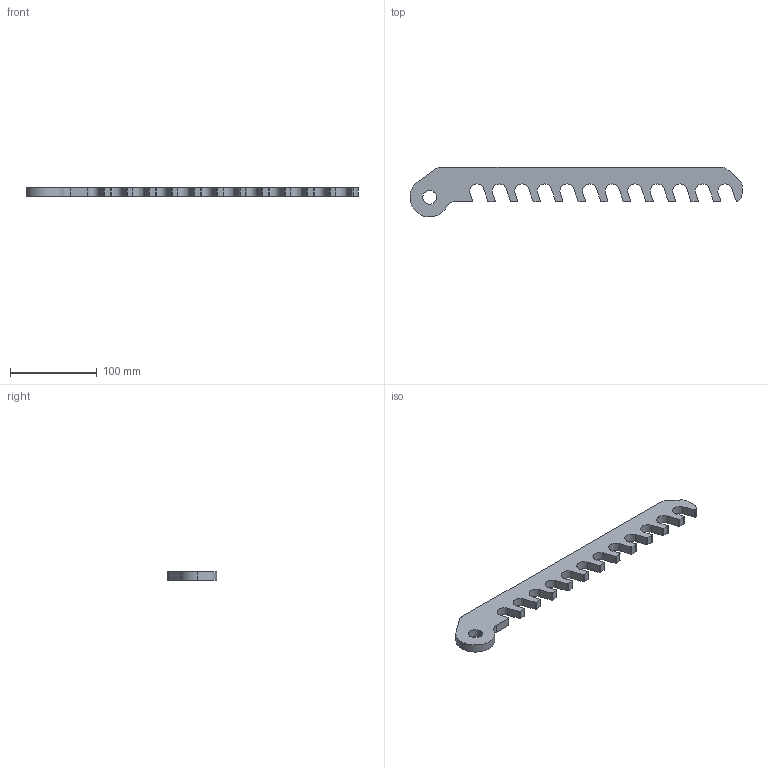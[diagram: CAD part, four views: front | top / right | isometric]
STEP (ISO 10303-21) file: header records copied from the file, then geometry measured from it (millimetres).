
FILE_DESCRIPTION (( 'STEP AP214' ), '1' );
FILE_NAME ('Schiebestange.STEP', '2016-12-28T08:45:37', ( '' ), ( '' ), 'SwSTEP 2.0', 'SolidWorks 2016', '' );
FILE_SCHEMA (( 'AUTOMOTIVE_DESIGN' ));
Length unit declared in the file: millimetre
Products named in the file (1): Schiebestange
Bounding box: 382.5 x 57.44 x 10 mm (x, y, z)
Volume: 112185.6 mm3; surface area: 35205.5 mm2
Topology: 1 solids, 1 shells, 99 faces, 291 edges, 194 vertices
Faces by surface type: cylinder 57, plane 42
Entity records: 3377 total; most frequent: DIRECTION 605, CARTESIAN_POINT 585, ORIENTED_EDGE 582, EDGE_CURVE 291, AXIS2_PLACEMENT_3D 214, VERTEX_POINT 194, VECTOR 177, LINE 177
